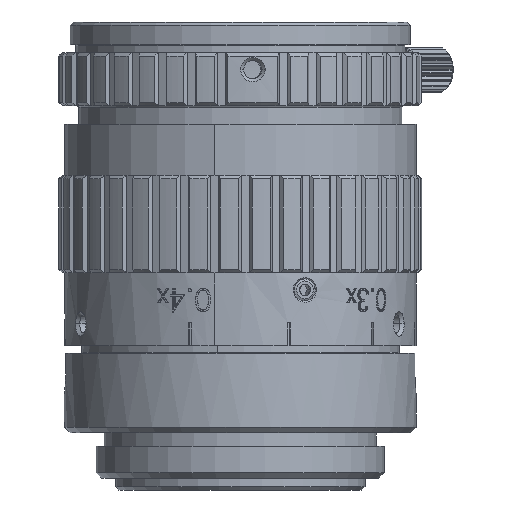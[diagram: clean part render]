
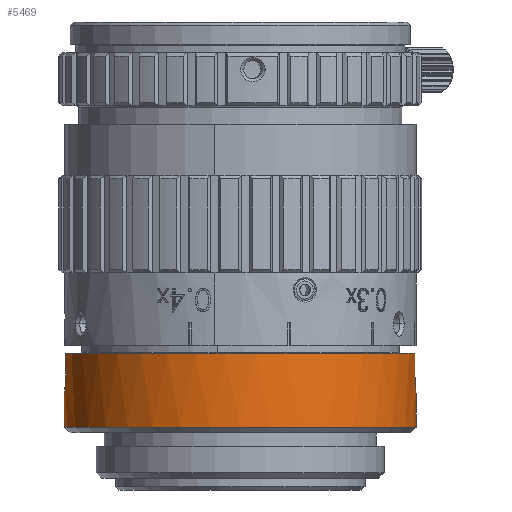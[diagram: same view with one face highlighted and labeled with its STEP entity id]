
A CAD part, front view. The second image highlights one B-rep face of the part: STEP entity #5469.
In plain terms, the highlighted cylindrical face has radius 15.5 mm (diameter 31 mm), a partial arc.
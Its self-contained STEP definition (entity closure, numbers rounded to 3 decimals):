
#217 = B_SPLINE_CURVE_WITH_KNOTS ( 'NONE', 3,
 ( #18120, #18106, #18115, #18121, #18122, #18123, #18124, #18125, #18126, #18127, #18128, #18129, #18130, #18131, #18132, #18133 ),
 .UNSPECIFIED., .F., .F.,
 ( 4, 2, 2, 2, 2, 2, 2, 4 ),
 ( 0.003, 0.003, 0.003, 0.004, 0.004, 0.004, 0.005, 0.005 ),
 .UNSPECIFIED. ) ;
#311 = B_SPLINE_CURVE_WITH_KNOTS ( 'NONE', 3,
 ( #18143, #18137, #18138, #18144, #18145, #18146, #18147, #18148, #18149, #18150, #18151, #18152, #18153, #18154 ),
 .UNSPECIFIED., .F., .F.,
 ( 4, 2, 2, 2, 2, 2, 4 ),
 ( 0., 0., 0.001, 0.001, 0.001, 0.002, 0.003 ),
 .UNSPECIFIED. ) ;
#623 = ORIENTED_EDGE ( 'NONE', *, *, #2581, .F. ) ;
#723 = ORIENTED_EDGE ( 'NONE', *, *, #2920, .T. ) ;
#748 = ORIENTED_EDGE ( 'NONE', *, *, #2577, .F. ) ;
#752 = ORIENTED_EDGE ( 'NONE', *, *, #2576, .T. ) ;
#2576 = EDGE_CURVE ( 'NONE', #52524, #52008, #41911, .T. ) ;
#2577 = EDGE_CURVE ( 'NONE', #54989, #57161, #217, .T. ) ;
#2578 = EDGE_CURVE ( 'NONE', #57161, #57156, #18134, .T. ) ;
#2579 = EDGE_CURVE ( 'NONE', #57054, #57156, #42182, .T. ) ;
#2580 = EDGE_CURVE ( 'NONE', #57054, #49020, #18116, .T. ) ;
#2581 = EDGE_CURVE ( 'NONE', #49020, #55123, #311, .T. ) ;
#2905 = EDGE_CURVE ( 'NONE', #55123, #52008, #25222, .T. ) ;
#2920 = EDGE_CURVE ( 'NONE', #54989, #52524, #25341, .T. ) ;
#5469 = ADVANCED_FACE ( 'NONE', ( #25772 ), #25776, .T. ) ;
#18106 = CARTESIAN_POINT ( 'NONE',  ( -15.5, -0.114, -288.641 ) ) ;
#18111 = CARTESIAN_POINT ( 'NONE',  ( 15.401, -1.75, -296.091 ) ) ;
#18115 = CARTESIAN_POINT ( 'NONE',  ( -15.499, -0.23, -288.63 ) ) ;
#18116 = LINE ( 'NONE', #18111, #41673 ) ;
#18117 = CARTESIAN_POINT ( 'NONE',  ( 0., 0., -291.591 ) ) ;
#18118 = DIRECTION ( 'NONE',  ( 0., 0., 1. ) ) ;
#18119 = DIRECTION ( 'NONE',  ( -1., 0., 0. ) ) ;
#18120 = CARTESIAN_POINT ( 'NONE',  ( -15.5, 0., -288.641 ) ) ;
#18121 = CARTESIAN_POINT ( 'NONE',  ( -15.494, -0.454, -288.585 ) ) ;
#18122 = CARTESIAN_POINT ( 'NONE',  ( -15.49, -0.564, -288.552 ) ) ;
#18123 = CARTESIAN_POINT ( 'NONE',  ( -15.481, -0.775, -288.464 ) ) ;
#18124 = CARTESIAN_POINT ( 'NONE',  ( -15.475, -0.878, -288.409 ) ) ;
#18125 = CARTESIAN_POINT ( 'NONE',  ( -15.464, -1.067, -288.283 ) ) ;
#18126 = CARTESIAN_POINT ( 'NONE',  ( -15.457, -1.155, -288.21 ) ) ;
#18127 = CARTESIAN_POINT ( 'NONE',  ( -15.444, -1.319, -288.047 ) ) ;
#18128 = CARTESIAN_POINT ( 'NONE',  ( -15.438, -1.391, -287.959 ) ) ;
#18129 = CARTESIAN_POINT ( 'NONE',  ( -15.426, -1.518, -287.77 ) ) ;
#18130 = CARTESIAN_POINT ( 'NONE',  ( -15.42, -1.573, -287.667 ) ) ;
#18131 = CARTESIAN_POINT ( 'NONE',  ( -15.406, -1.704, -287.35 ) ) ;
#18132 = CARTESIAN_POINT ( 'NONE',  ( -15.401, -1.75, -287.122 ) ) ;
#18133 = CARTESIAN_POINT ( 'NONE',  ( -15.401, -1.75, -286.891 ) ) ;
#18134 = LINE ( 'NONE', #18135, #42555 ) ;
#18135 = CARTESIAN_POINT ( 'NONE',  ( -15.401, -1.75, -296.091 ) ) ;
#18136 = DIRECTION ( 'NONE',  ( 0., 0., 1. ) ) ;
#18137 = CARTESIAN_POINT ( 'NONE',  ( 15.401, -1.75, -287.007 ) ) ;
#18138 = CARTESIAN_POINT ( 'NONE',  ( 15.402, -1.739, -287.121 ) ) ;
#18139 = CARTESIAN_POINT ( 'NONE',  ( 0., 0., -285.091 ) ) ;
#18140 = DIRECTION ( 'NONE',  ( 0., 0., -1. ) ) ;
#18141 = DIRECTION ( 'NONE',  ( -1., 0., 0. ) ) ;
#18142 = DIRECTION ( 'NONE',  ( 0., 0., -1. ) ) ;
#18143 = CARTESIAN_POINT ( 'NONE',  ( 15.401, -1.75, -286.891 ) ) ;
#18144 = CARTESIAN_POINT ( 'NONE',  ( 15.407, -1.694, -287.344 ) ) ;
#18145 = CARTESIAN_POINT ( 'NONE',  ( 15.411, -1.66, -287.456 ) ) ;
#18146 = CARTESIAN_POINT ( 'NONE',  ( 15.42, -1.572, -287.668 ) ) ;
#18147 = CARTESIAN_POINT ( 'NONE',  ( 15.426, -1.519, -287.768 ) ) ;
#18148 = CARTESIAN_POINT ( 'NONE',  ( 15.438, -1.392, -287.958 ) ) ;
#18149 = CARTESIAN_POINT ( 'NONE',  ( 15.444, -1.318, -288.048 ) ) ;
#18150 = CARTESIAN_POINT ( 'NONE',  ( 15.463, -1.076, -288.29 ) ) ;
#18151 = CARTESIAN_POINT ( 'NONE',  ( 15.476, -0.88, -288.421 ) ) ;
#18152 = CARTESIAN_POINT ( 'NONE',  ( 15.495, -0.459, -288.595 ) ) ;
#18153 = CARTESIAN_POINT ( 'NONE',  ( 15.5, -0.229, -288.641 ) ) ;
#18154 = CARTESIAN_POINT ( 'NONE',  ( 15.5, 0., -288.641 ) ) ;
#19782 = AXIS2_PLACEMENT_3D ( 'NONE', #25774, #25765, #25777 ) ;
#25220 = CARTESIAN_POINT ( 'NONE',  ( 15.5, 0., -296.091 ) ) ;
#25222 = LINE ( 'NONE', #25220, #46021 ) ;
#25227 = DIRECTION ( 'NONE',  ( 0., 0., -1. ) ) ;
#25341 = LINE ( 'NONE', #25354, #45689 ) ;
#25354 = CARTESIAN_POINT ( 'NONE',  ( -15.5, 0., -296.091 ) ) ;
#25366 = DIRECTION ( 'NONE',  ( 0., 0., -1. ) ) ;
#25765 = DIRECTION ( 'NONE',  ( 0., 0., -1. ) ) ;
#25772 = FACE_OUTER_BOUND ( 'NONE', #53072, .T. ) ;
#25774 = CARTESIAN_POINT ( 'NONE',  ( 0., 0., -296.091 ) ) ;
#25776 = CYLINDRICAL_SURFACE ( 'NONE', #19782, 15.5 ) ;
#25777 = DIRECTION ( 'NONE',  ( -1., 0., 0. ) ) ;
#32263 = ORIENTED_EDGE ( 'NONE', *, *, #2578, .F. ) ;
#32274 = ORIENTED_EDGE ( 'NONE', *, *, #2905, .F. ) ;
#32288 = ORIENTED_EDGE ( 'NONE', *, *, #2579, .T. ) ;
#32336 = ORIENTED_EDGE ( 'NONE', *, *, #2580, .F. ) ;
#36011 = CARTESIAN_POINT ( 'NONE',  ( 15.401, -1.75, -286.891 ) ) ;
#36223 = CARTESIAN_POINT ( 'NONE',  ( 15.5, 0., -291.591 ) ) ;
#36439 = CARTESIAN_POINT ( 'NONE',  ( -15.5, 0., -291.591 ) ) ;
#36538 = CARTESIAN_POINT ( 'NONE',  ( -15.5, 0., -288.641 ) ) ;
#36663 = CARTESIAN_POINT ( 'NONE',  ( 15.5, 0., -288.641 ) ) ;
#37127 = CARTESIAN_POINT ( 'NONE',  ( 15.401, -1.75, -285.091 ) ) ;
#37233 = CARTESIAN_POINT ( 'NONE',  ( -15.401, -1.75, -285.091 ) ) ;
#37662 = CARTESIAN_POINT ( 'NONE',  ( -15.401, -1.75, -286.891 ) ) ;
#41673 = VECTOR ( 'NONE', #18142, 1000. ) ;
#41911 = CIRCLE ( 'NONE', #42316, 15.5 ) ;
#42154 = AXIS2_PLACEMENT_3D ( 'NONE', #18139, #18140, #18141 ) ;
#42182 = CIRCLE ( 'NONE', #42154, 15.5 ) ;
#42316 = AXIS2_PLACEMENT_3D ( 'NONE', #18117, #18118, #18119 ) ;
#42555 = VECTOR ( 'NONE', #18136, 1000. ) ;
#45689 = VECTOR ( 'NONE', #25366, 1000. ) ;
#46021 = VECTOR ( 'NONE', #25227, 1000. ) ;
#49020 = VERTEX_POINT ( 'NONE', #36011 ) ;
#52008 = VERTEX_POINT ( 'NONE', #36223 ) ;
#52524 = VERTEX_POINT ( 'NONE', #36439 ) ;
#53072 = EDGE_LOOP ( 'NONE', ( #32274, #623, #32336, #32288, #32263, #748, #723, #752 ) ) ;
#54989 = VERTEX_POINT ( 'NONE', #36538 ) ;
#55123 = VERTEX_POINT ( 'NONE', #36663 ) ;
#57054 = VERTEX_POINT ( 'NONE', #37127 ) ;
#57156 = VERTEX_POINT ( 'NONE', #37233 ) ;
#57161 = VERTEX_POINT ( 'NONE', #37662 ) ;
